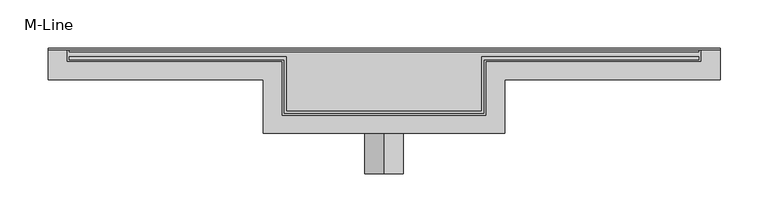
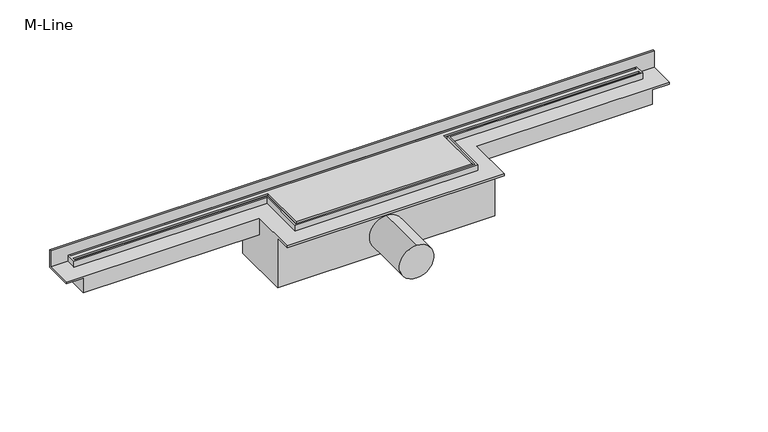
"""IFC4 building model written with IfcOpenShell, lengths in millimetres: sanitary terminal geometry, NLRS_PF_52_UN_M-Line_Easydrain : M-Line."""

from ifc_helpers import new_model, si_unit, point, frame, frame_2d, origin, place, context, project, spatial, circle_curve, trimmed, segment, composite_curve, outline, extrude, faceted_brep, source, transform, mapped, element, save


def m_line_c0a41354(model_context):
    return source(origin(), model_context, "Body", "SolidModel", [
        faceted_brep([(511.5, 35.0, 0.0), (-148.5, 35.0, 0.0), (-148.5, 21.0, 0.0), (75.5, 21.0, 0.0), (75.5, -35.0, 0.0), (287.5, -35.0, 0.0), (287.5, 21.0, 0.0), (511.5, 21.0, 0.0), (509.5, 23.0, 0.0), (285.5, 23.0, 0.0), (285.5, -33.0, 0.0), (77.5, -33.0, 0.0), (77.5, 23.0, 0.0), (-146.5, 23.0, 0.0), (-146.5, 26.0, 0.0), (79.5, 26.0, 0.0), (79.5, -31.0, 0.0), (283.5, -31.0, 0.0), (283.5, 26.0, 0.0), (509.5, 26.0, 0.0), (509.5, 33.0, 0.0), (509.5, 31.0, 0.0), (-146.5, 31.0, 0.0), (-146.5, 33.0, 0.0), (511.5, 35.0, -9.0), (511.5, 21.0, -9.0), (287.5, 21.0, -9.0), (287.5, -35.0, -9.0), (75.5, -35.0, -9.0), (75.5, 21.0, -9.0), (-148.5, 21.0, -9.0), (-148.5, 35.0, -9.0), (509.5, 33.0, -9.0), (-146.5, 33.0, -9.0), (-146.5, 23.0, -9.0), (77.5, 23.0, -9.0), (77.5, -33.0, -9.0), (285.5, -33.0, -9.0), (285.5, 23.0, -9.0), (509.5, 23.0, -9.0), (509.5, 26.0, -2.0), (509.5, 31.0, -2.0), (-146.5, 31.0, -2.0), (-146.5, 26.0, -2.0), (283.5, 26.0, -2.0), (283.5, -31.0, -2.0), (79.5, -31.0, -2.0), (79.5, 26.0, -2.0)], [[[0, 1, 2, 3, 4, 5, 6, 7], [8, 9, 10, 11, 12, 13, 14, 15, 16, 17, 18, 19], [20, 21, 22, 23]], [[24, 25, 26, 27, 28, 29, 30, 31], [32, 33, 34, 35, 36, 37, 38, 39]], [[1, 0, 24, 31]], [[31, 30, 2, 1]], [[3, 2, 30, 29]], [[4, 3, 29, 28]], [[5, 4, 28, 27]], [[6, 5, 27, 26]], [[7, 6, 26, 25]], [[25, 24, 0, 7]], [[32, 39, 8, 19, 40, 41, 21, 20]], [[9, 8, 39, 38]], [[10, 9, 38, 37]], [[11, 10, 37, 36]], [[12, 11, 36, 35]], [[13, 12, 35, 34]], [[34, 33, 23, 22, 42, 43, 14, 13]], [[20, 23, 33, 32]], [[44, 45, 46, 47, 43, 42, 41, 40]], [[16, 15, 47, 46]], [[17, 16, 46, 45]], [[18, 17, 45, 44]], [[18, 44, 40, 19]], [[22, 21, 41, 42]], [[47, 15, 14, 43]]]),
        faceted_brep([(531.5, 35.0, -9.0), (531.5, 2.0, -9.0), (511.5, 2.0, -9.0), (511.5, 21.0, -9.0), (511.5, 34.0, -9.0), (511.5, 35.0, -9.0), (307.5, -54.0, -9.0), (55.5, -54.0, -9.0), (55.5, -35.0, -9.0), (75.5, -35.0, -9.0), (287.5, -35.0, -9.0), (307.5, -35.0, -9.0), (-168.5, 2.0, -9.0), (-168.5, 35.0, -9.0), (-148.5, 35.0, -9.0), (-148.5, 34.0, -9.0), (-148.5, 21.0, -9.0), (-148.5, 2.0, -9.0), (-168.5, 2.0, -7.0), (-168.5, 33.0, -7.0), (-168.5, 33.0, 13.0), (-168.5, 35.0, 13.0), (307.5, -54.0, -7.0), (55.5, -54.0, -7.0), (531.5, 35.0, 13.0), (531.5, 33.0, 13.0), (531.5, 33.0, -7.0), (531.5, 2.0, -7.0), (307.5, 2.0, -7.0), (55.5, 2.0, -7.0), (307.5, -35.0, -70.0), (55.5, -35.0, -70.0), (55.5, 35.0, -70.0), (307.5, 35.0, -70.0), (55.5, 35.0, -27.0), (-148.5, 35.0, -27.0), (511.5, 35.0, -27.0), (307.5, 35.0, -27.0), (-148.5, 2.0, -27.0), (55.5, 2.0, -27.0), (307.5, 2.0, -27.0), (511.5, 2.0, -27.0)], [[[0, 1, 2, 3, 4, 5]], [[6, 7, 8, 9, 10, 11]], [[12, 13, 14, 15, 16, 17]], [[13, 12, 18, 19, 20, 21]], [[7, 6, 22, 23]], [[1, 0, 24, 25, 26, 27]], [[24, 21, 20, 25]], [[25, 20, 19, 26]], [[23, 22, 28, 27, 26, 19, 18, 29]], [[30, 31, 32, 33]], [[33, 32, 34, 35, 14, 13, 21, 24, 0, 5, 36, 37]], [[35, 38, 17, 16, 15, 14]], [[38, 39, 29, 18, 12, 17]], [[39, 34, 32, 31, 8, 7, 23, 29]], [[31, 30, 11, 10, 9, 8]], [[37, 40, 28, 22, 6, 11, 30, 33]], [[40, 41, 2, 1, 27, 28]], [[41, 36, 5, 4, 3, 2]], [[34, 39, 38, 35]], [[40, 37, 36, 41]]]),
        extrude(outline(composite_curve([segment(trimmed(circle_curve(frame_2d((-45.0, 181.5)), 20.0), [point((-25.0, 181.5))], [point((-65.0, 181.5))], False, "CARTESIAN"), True, "CONTINUOUS"), segment(trimmed(circle_curve(frame_2d((-45.0, 181.5)), 20.0), [point((-65.0, 181.5))], [point((-25.0, 181.5))], False, "CARTESIAN"), True, "CONTINUOUS")], self_intersect=False)), frame((0.0, -96.0, 0.0), z_axis=(0.0, 1.0, 0.0), x_axis=(0.0, 0.0, 1.0)), (0.0, 0.0, 1.0), 96.0),
    ])


if __name__ == "__main__":
    model = new_model("IFC4")
    model_context = context("Model", 3, world=origin())
    ifc_project = project(units=[si_unit("LENGTHUNIT", "METRE", prefix="MILLI")], contexts=[model_context])
    site = spatial("IfcSite", under=ifc_project)
    building = spatial("IfcBuilding", under=site)
    placement = place(None, origin())
    m_line_shape = m_line_c0a41354(model_context)
    element("IfcSanitaryTerminal", 1, ObjectType="NLRS_PF_52_UN_M-Line_Easydrain : M-Line", at=placement, inside=building, context=model_context, shape_type="MappedRepresentation", body=[
        mapped(m_line_shape, transform((0.0, 0.0, 0.0), x_axis=(1.0, 0.0, 0.0), y_axis=(0.0, 1.0, 0.0), z_axis=(0.0, 0.0, 1.0))),
    ])
    save(model, "model.ifc")
